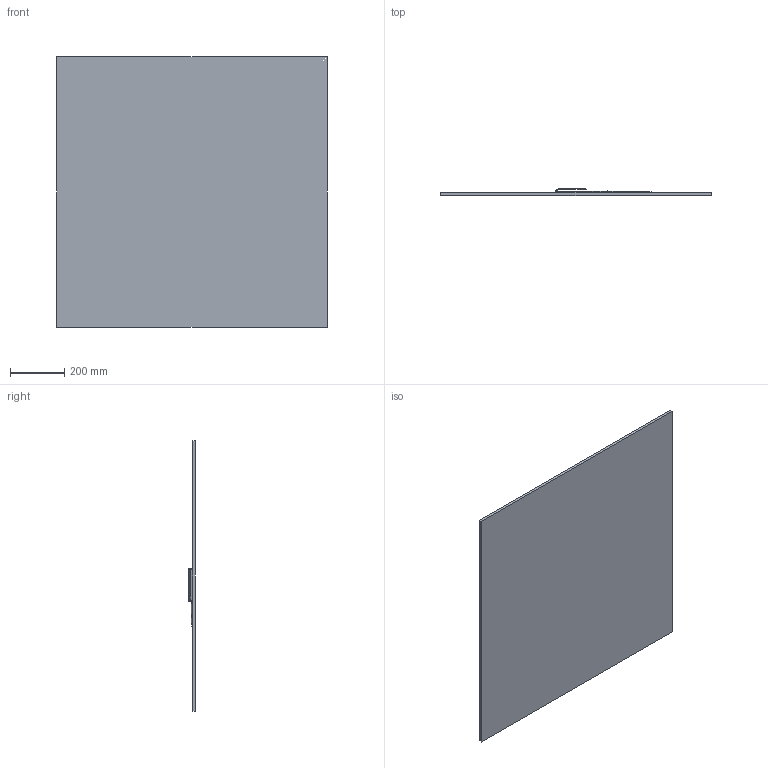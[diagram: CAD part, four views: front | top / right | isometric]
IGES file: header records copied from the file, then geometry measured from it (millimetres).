
Start section: SolidWorks IGES file using analytic representation for surfaces
Global section: file name: C:\Users\Cemal\Desktop\wallet.IGS; native system: SolidWorks 2011; preprocessor: SolidWorks 2011; author: Cemal; date: 110901.174321; units: millimetre
Bounding box: 1000 x 25.76 x 1000 mm (x, y, z)
Surface area: 2191131.9 mm2 (no closed solid volume)
Topology: 0 solids, 0 shells, 2226 faces, 13107 edges, 13106 vertices
Faces by surface type: bspline 2217, revolution 9
